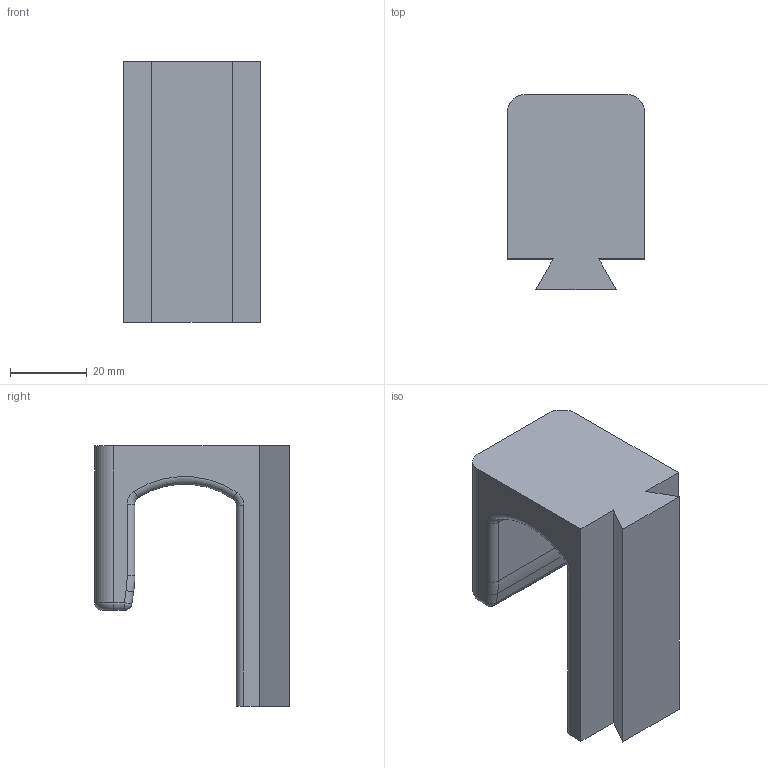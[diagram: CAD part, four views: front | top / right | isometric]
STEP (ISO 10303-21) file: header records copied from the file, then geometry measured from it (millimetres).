
FILE_DESCRIPTION(/* description */ ('','CAx-IF Rec.Pracs.---Representation and Presentation of Product Manufacturing Information (PMI)---4.0---2014-10-13'),/* implementation_level */ '2;1');
FILE_NAME(/* name */ '01_Getraenkehalter_Teil-02.step',/* time_stamp */ '2024-12-13T16:36:32+01:00',/* author */ (''),/* organization */ (''),/* preprocessor_version */ 'ST-DEVELOPER v20',/* originating_system */ 'Autodesk Translation Framework v13.20.0.188',/* authorisation */ '');
FILE_SCHEMA (('AP242_MANAGED_MODEL_BASED_3D_ENGINEERING_MIM_LF { 1 0 10303 442 1 1 4 }'));
Length unit declared in the file: millimetre
Products named in the file (1): 01_Getraenkehalter_B02
Bounding box: 36 x 50.9 x 68 mm (x, y, z)
Volume: 49800 mm3; surface area: 14051 mm2
Topology: 1 solids, 1 shells, 42 faces, 98 edges, 58 vertices
Faces by surface type: cylinder 16, plane 14, torus 10, sphere 2
Entity records: 1225 total; most frequent: DIRECTION 230, CARTESIAN_POINT 199, ORIENTED_EDGE 196, EDGE_CURVE 98, AXIS2_PLACEMENT_3D 89, VERTEX_POINT 58, LINE 52, VECTOR 52
